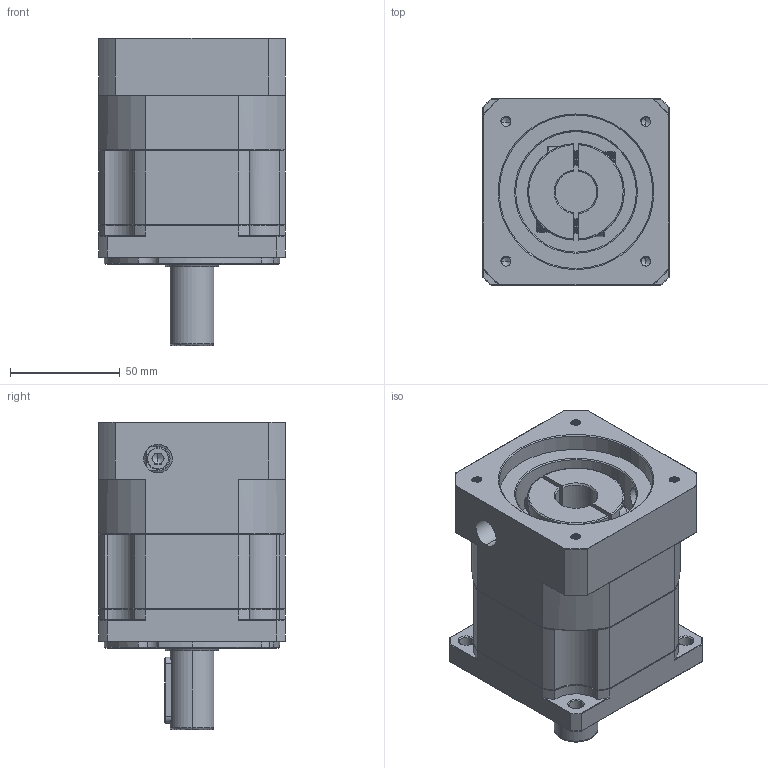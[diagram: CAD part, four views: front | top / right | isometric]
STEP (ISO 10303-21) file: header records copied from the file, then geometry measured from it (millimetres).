
FILE_DESCRIPTION (( 'STEP AP214' ), '1' );
FILE_NAME ('ZB90-D20-L1-19-70-90-M5.STEP', '2022-05-02T15:43:52', ( '' ), ( 'Microsoft' ), 'SwSTEP 2.0', 'SolidWorks 2016', '' );
FILE_SCHEMA (( 'AUTOMOTIVE_DESIGN' ));
Length unit declared in the file: millimetre
Products named in the file (1): ZB90-D20-L1-19-70-90-M5
Bounding box: 85 x 85 x 140 mm (x, y, z)
Volume: 608365 mm3; surface area: 84342.9 mm2
Topology: 4 solids, 4 shells, 1911 faces, 5026 edges, 3192 vertices
Faces by surface type: plane 876, cylinder 390, cone 319, bspline 314, torus 12
Entity records: 103949 total; most frequent: CARTESIAN_POINT 38572, ORIENTED_EDGE 10008, DIRECTION 8025, EDGE_CURVE 5004, VERTEX_POINT 3192, VECTOR 3083, LINE 3083, AXIS2_PLACEMENT_3D 2471
